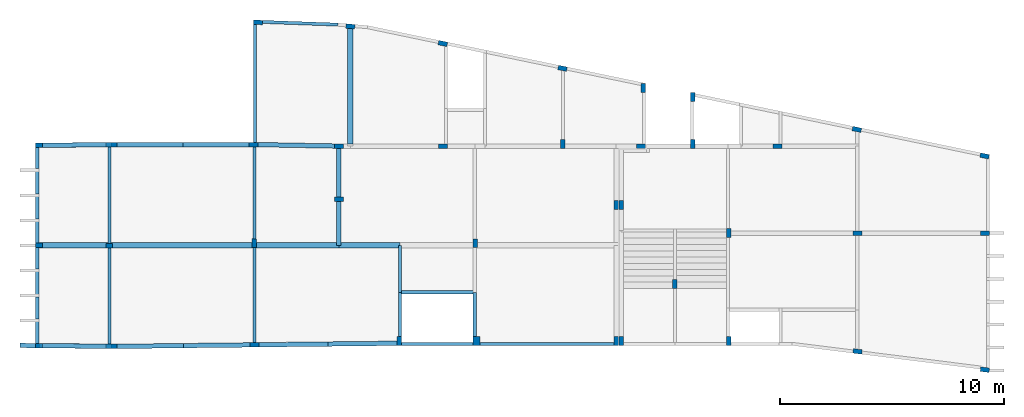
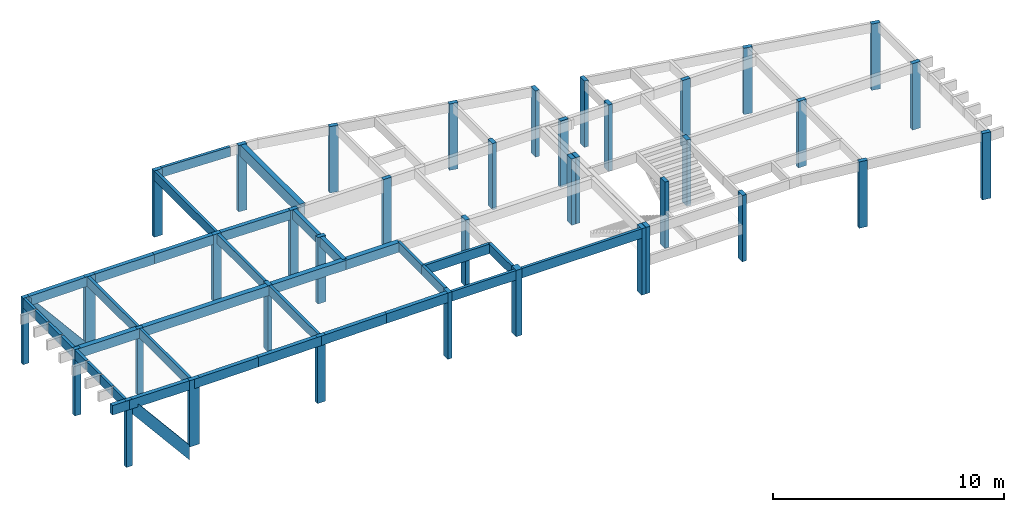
# One storey, part 1 of 4: 39 beams, 38 columns.
"""IFC4 building model written with IfcOpenShell, lengths in centimetres."""

from ifc_helpers import new_model, si_unit, derived_unit, frame, origin, origin_with_axes, origin_2d_with_axis, place, context, project, spatial, rectangle, extrude, clip, halfspace, material, element, save


model = new_model("IFC4")

# Units and contexts
model_context = context("Model", 3, precision=1e-05, world=origin_with_axes(), identifier="Body")
ifc_project = project(units=[si_unit("LENGTHUNIT", "METRE", prefix="CENTI"), si_unit("VOLUMEUNIT", "CUBIC_METRE"), si_unit("AREAUNIT", "SQUARE_METRE"), si_unit("POWERUNIT", "WATT"), si_unit("LUMINOUSFLUXUNIT", "LUMEN"), si_unit("ELECTRICCURRENTUNIT", "AMPERE"), si_unit("PRESSUREUNIT", "PASCAL", prefix="KILO"), si_unit("MASSUNIT", "GRAM", prefix="KILO"), si_unit("PLANEANGLEUNIT", "RADIAN"), derived_unit("VOLUMETRICFLOWRATEUNIT", [(si_unit("LENGTHUNIT", "METRE"), 3), (si_unit("TIMEUNIT", "SECOND"), -1)])], contexts=[model_context])

# Site, building, storey
site_placement = place(None, origin_with_axes())
site = spatial("IfcSite", under=ifc_project, at=site_placement)
building_placement = place(site_placement, origin())
building = spatial("IfcBuilding", under=site, at=building_placement)
placement_1 = place(building_placement, origin_with_axes())
placement_2 = place(placement_1, frame((0.0, 0.0, 550.0), z_axis=(0.0, 0.0, 1.0), x_axis=(1.0, 0.0, 0.0)))
placement_3 = place(placement_2, frame((0.0, 0.0, 350.0), z_axis=(0.0, 0.0, 1.0), x_axis=(1.0, 0.0, 0.0)))
storey_placement = place(placement_3, frame((0.0, 0.0, 350.0), z_axis=(0.0, 0.0, 1.0), x_axis=(1.0, 0.0, 0.0)))
storey = spatial("IfcBuildingStorey", under=building, at=storey_placement, Name="2º PAV.", CompositionType="ELEMENT", Elevation=1250.0)

# Columns
ifc_material = material(Name="Concreto")
column_1_placement = place(storey_placement, frame((1045.1201307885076, 95.92384188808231, 0.0), z_axis=(0.0, 0.0, 1.0), x_axis=(1.0, 0.0, 0.0)))
element("IfcColumn", 1, at=column_1_placement, inside=storey, material=ifc_material, Name="P1", context=model_context, shape_type="SolidModel", body=[
    extrude(rectangle(XDim=20.0, YDim=40.0, at=origin_2d_with_axis()), frame((0.0, 0.0, 0.0), z_axis=(0.0, 0.0, 1.0), x_axis=(-0.036643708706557, -0.999328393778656, 0.0)), (0.0, 0.0, -1.0), 350.0),
])
for number, where, z_axis, x_axis, name in (
    (2, (1406.0, -455.9, 0.0), (0.0, 0.0, 1.0), (1.0, 0.0, 0.0), "P10"),
    (3, (1871.0, -455.9, 0.0), (0.0, 0.0, 1.0), (1.0, 0.0, 0.0), "P11"),
):
    element("IfcColumn", number, at=place(storey_placement, frame(where, z_axis=z_axis, x_axis=x_axis)), inside=storey, material=ifc_material, Name=name, context=model_context, shape_type="SolidModel", body=[
        extrude(rectangle(XDim=20.0, YDim=40.0, at=origin_2d_with_axis()), frame((0.0, 0.0, 0.0), z_axis=(0.0, 0.0, 1.0), x_axis=(0.0, -1.0, 0.0)), (0.0, 0.0, -1.0), 350.0),
    ])
column_2_placement = place(storey_placement, frame((2404.5, -445.9, 0.0), z_axis=(0.0, 0.0, 1.0), x_axis=(1.0, 0.0, 0.0)))
element("IfcColumn", 4, at=column_2_placement, inside=storey, material=ifc_material, Name="P12", context=model_context, shape_type="SolidModel", body=[
    extrude(rectangle(XDim=20.0, YDim=40.0, at=origin_2d_with_axis()), origin_with_axes(), (0.0, 0.0, -1.0), 350.0),
])
column_3_placement = place(storey_placement, frame((2753.0, -455.9, 0.0), z_axis=(0.0, 0.0, 1.0), x_axis=(1.0, 0.0, 0.0)))
element("IfcColumn", 5, at=column_3_placement, inside=storey, material=ifc_material, Name="P13", context=model_context, shape_type="SolidModel", body=[
    extrude(rectangle(XDim=20.0, YDim=40.0, at=origin_2d_with_axis()), frame((0.0, 0.0, 0.0), z_axis=(0.0, 0.0, 1.0), x_axis=(0.0, -1.0, 0.0)), (0.0, 0.0, -1.0), 350.0),
])
column_4_placement = place(storey_placement, frame((2983.0, -445.9, 0.0), z_axis=(0.0, 0.0, 1.0), x_axis=(1.0, 0.0, 0.0)))
element("IfcColumn", 6, at=column_4_placement, inside=storey, material=ifc_material, Name="P14", context=model_context, shape_type="SolidModel", body=[
    extrude(rectangle(XDim=20.0, YDim=40.0, at=origin_2d_with_axis()), origin_with_axes(), (0.0, 0.0, -1.0), 350.0),
])
column_5_placement = place(storey_placement, frame((3361.6, -455.9, 0.0), z_axis=(0.0, 0.0, 1.0), x_axis=(1.0, 0.0, 0.0)))
element("IfcColumn", 7, at=column_5_placement, inside=storey, material=ifc_material, Name="P15", context=model_context, shape_type="SolidModel", body=[
    extrude(rectangle(XDim=20.0, YDim=40.0, at=origin_2d_with_axis()), frame((0.0, 0.0, 0.0), z_axis=(0.0, 0.0, 1.0), x_axis=(0.0, -1.0, 0.0)), (0.0, 0.0, -1.0), 350.0),
])
column_6_placement = place(storey_placement, frame((4283.977691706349, -499.29875285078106, 0.0), z_axis=(0.0, 0.0, 1.0), x_axis=(1.0, 0.0, 0.0)))
element("IfcColumn", 8, at=column_6_placement, inside=storey, material=ifc_material, Name="P16", context=model_context, shape_type="SolidModel", body=[
    extrude(rectangle(XDim=20.0, YDim=40.0, at=origin_2d_with_axis()), frame((0.0, 0.0, 0.0), z_axis=(0.0, 0.0, 1.0), x_axis=(-0.204496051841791, -0.978867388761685, 0.0)), (0.0, 0.0, -1.0), 350.0),
])
column_7_placement = place(storey_placement, frame((1406.0, -692.9, 0.0), z_axis=(0.0, 0.0, 1.0), x_axis=(1.0, 0.0, 0.0)))
element("IfcColumn", 9, at=column_7_placement, inside=storey, material=ifc_material, Name="P18", context=model_context, shape_type="SolidModel", body=[
    extrude(rectangle(XDim=20.0, YDim=40.0, at=origin_2d_with_axis()), frame((0.0, 0.0, 0.0), z_axis=(0.0, 0.0, 1.0), x_axis=(0.0, 1.0, 0.0)), (0.0, 0.0, -1.0), 350.0),
])
column_8_placement = place(storey_placement, frame((2641.6, -718.1, 0.0), z_axis=(0.0, 0.0, 1.0), x_axis=(1.0, 0.0, 0.0)))
element("IfcColumn", 10, at=column_8_placement, inside=storey, material=ifc_material, Name="P19", context=model_context, shape_type="SolidModel", body=[
    extrude(rectangle(XDim=20.0, YDim=40.0, at=origin_2d_with_axis()), origin_with_axes(), (0.0, 0.0, -1.0), 350.0),
])
column_9_placement = place(storey_placement, frame((1457.0958307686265, 78.33654703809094, 0.0), z_axis=(0.0, 0.0, 1.0), x_axis=(1.0, 0.0, 0.0)))
element("IfcColumn", 11, at=column_9_placement, inside=storey, material=ifc_material, Name="P2", context=model_context, shape_type="SolidModel", body=[
    extrude(rectangle(XDim=20.0, YDim=40.0, at=origin_2d_with_axis()), frame((0.0, 0.0, 0.0), z_axis=(0.0, 0.0, 1.0), x_axis=(-0.085416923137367, -0.996345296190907, 0.0)), (0.0, 0.0, -1.0), 350.0),
])
column_10_placement = place(storey_placement, frame((2663.6, -718.1, 0.0), z_axis=(0.0, 0.0, 1.0), x_axis=(1.0, 0.0, 0.0)))
element("IfcColumn", 12, at=column_10_placement, inside=storey, material=ifc_material, Name="P20", context=model_context, shape_type="SolidModel", body=[
    extrude(rectangle(XDim=20.0, YDim=40.0, at=origin_2d_with_axis()), frame((0.0, 0.0, 0.0), z_axis=(0.0, 0.0, 1.0), x_axis=(-1.0, 0.0, 0.0)), (0.0, 0.0, -1.0), 350.0),
])
column_11_placement = place(storey_placement, frame((1029.5, -888.4, 0.0), z_axis=(0.0, 0.0, 1.0), x_axis=(1.0, 0.0, 0.0)))
element("IfcColumn", 13, at=column_11_placement, inside=storey, material=ifc_material, Name="P22", context=model_context, shape_type="SolidModel", body=[
    extrude(rectangle(XDim=20.0, YDim=40.0, at=origin_2d_with_axis()), frame((0.0, 0.0, 0.0), z_axis=(0.0, 0.0, 1.0), x_axis=(1.0, -0.003490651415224, 0.0)), (0.0, 0.0, -1.0), 350.0),
])
for number, where, z_axis, x_axis, name in (
    (14, (2014.6, -888.4, 0.0), (0.0, 0.0, 1.0), (1.0, 0.0, 0.0), "P23"),
    (15, (3143.6, -843.6, 0.0), (0.0, 0.0, 1.0), (1.0, 0.0, 0.0), "P24"),
):
    element("IfcColumn", number, at=place(storey_placement, frame(where, z_axis=z_axis, x_axis=x_axis)), inside=storey, material=ifc_material, Name=name, context=model_context, shape_type="SolidModel", body=[
        extrude(rectangle(XDim=20.0, YDim=40.0, at=origin_2d_with_axis()), origin_with_axes(), (0.0, 0.0, -1.0), 350.0),
    ])
for number, where, z_axis, x_axis, name in (
    (16, (3716.6, -843.1, 0.0), (0.0, 0.0, 1.0), (1.0, 0.0, 0.0), "P25"),
    (17, (4285.6, -843.1, 0.0), (0.0, 0.0, 1.0), (1.0, 0.0, 0.0), "P26"),
):
    element("IfcColumn", number, at=place(storey_placement, frame(where, z_axis=z_axis, x_axis=x_axis)), inside=storey, material=ifc_material, Name=name, context=model_context, shape_type="SolidModel", body=[
        extrude(rectangle(XDim=20.0, YDim=40.0, at=origin_2d_with_axis()), frame((0.0, 0.0, 0.0), z_axis=(0.0, 0.0, 1.0), x_axis=(0.0, -1.0, 0.0)), (0.0, 0.0, -1.0), 350.0),
    ])
column_12_placement = place(storey_placement, frame((2903.6, -1070.1, 0.0), z_axis=(0.0, 0.0, 1.0), x_axis=(1.0, 0.0, 0.0)))
element("IfcColumn", 18, at=column_12_placement, inside=storey, material=ifc_material, Name="P27", context=model_context, shape_type="SolidModel", body=[
    extrude(rectangle(XDim=20.0, YDim=40.0, at=origin_2d_with_axis()), frame((0.0, 0.0, 0.0), z_axis=(0.0, 0.0, 1.0), x_axis=(-1.0, 0.0, 0.0)), (0.0, 0.0, -1.0), 350.0),
])
column_13_placement = place(storey_placement, frame((392.75, -1348.2, 0.0), z_axis=(0.0, 0.0, 1.0), x_axis=(1.0, 0.0, 0.0)))
element("IfcColumn", 19, at=column_13_placement, inside=storey, material=ifc_material, Name="P28", context=model_context, shape_type="SolidModel", body=[
    extrude(rectangle(XDim=20.0, YDim=50.0, at=origin_2d_with_axis()), frame((0.0, 0.0, 0.0), z_axis=(0.0, 0.0, 1.0), x_axis=(0.0, -1.0, 0.0)), (0.0, 0.0, -1.0), 350.0),
])
column_14_placement = place(storey_placement, frame((1029.7, -1341.0, 0.0), z_axis=(0.0, 0.0, 1.0), x_axis=(1.0, 0.0, 0.0)))
element("IfcColumn", 20, at=column_14_placement, inside=storey, material=ifc_material, Name="P29", context=model_context, shape_type="SolidModel", body=[
    extrude(rectangle(XDim=20.0, YDim=40.0, at=origin_2d_with_axis()), frame((0.0, 0.0, 0.0), z_axis=(0.0, 0.0, 1.0), x_axis=(0.0, -1.0, 0.0)), (0.0, 0.0, -1.0), 350.0),
])
column_15_placement = place(storey_placement, frame((1869.3876708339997, 1.853517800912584, 0.0), z_axis=(0.0, 0.0, 1.0), x_axis=(1.0, 0.0, 0.0)))
element("IfcColumn", 21, at=column_15_placement, inside=storey, material=ifc_material, Name="P3", context=model_context, shape_type="SolidModel", body=[
    extrude(rectangle(XDim=20.0, YDim=40.0, at=origin_2d_with_axis()), frame((0.0, 0.0, 0.0), z_axis=(0.0, 0.0, 1.0), x_axis=(-0.202787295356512, -0.979222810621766, 0.0)), (0.0, 0.0, -1.0), 350.0),
])
column_16_placement = place(storey_placement, frame((1674.6, -1324.1, 0.0), z_axis=(0.0, 0.0, 1.0), x_axis=(1.0, 0.0, 0.0)))
element("IfcColumn", 22, at=column_16_placement, inside=storey, material=ifc_material, Name="P30", context=model_context, shape_type="SolidModel", body=[
    extrude(rectangle(XDim=20.0, YDim=40.0, at=origin_2d_with_axis()), frame((0.0, 0.0, 0.0), z_axis=(0.0, 0.0, 1.0), x_axis=(-1.0, 0.0, 0.0)), (0.0, 0.0, -1.0), 350.0),
])
column_17_placement = place(storey_placement, frame((2019.6, -1324.1, 0.0), z_axis=(0.0, 0.0, 1.0), x_axis=(1.0, 0.0, 0.0)))
element("IfcColumn", 23, at=column_17_placement, inside=storey, material=ifc_material, Name="P31", context=model_context, shape_type="SolidModel", body=[
    extrude(rectangle(XDim=30.0, YDim=40.0, at=origin_2d_with_axis()), origin_with_axes(), (0.0, 0.0, -1.0), 350.0),
])
column_18_placement = place(storey_placement, frame((2641.6, -1324.1, 0.0), z_axis=(0.0, 0.0, 1.0), x_axis=(1.0, 0.0, 0.0)))
element("IfcColumn", 24, at=column_18_placement, inside=storey, material=ifc_material, Name="P32", context=model_context, shape_type="SolidModel", body=[
    extrude(rectangle(XDim=20.0, YDim=40.0, at=origin_2d_with_axis()), frame((0.0, 0.0, 0.0), z_axis=(0.0, 0.0, 1.0), x_axis=(-1.0, 0.0, 0.0)), (0.0, 0.0, -1.0), 350.0),
])
for number, where, z_axis, x_axis, name in (
    (25, (2663.6, -1324.1, 0.0), (0.0, 0.0, 1.0), (1.0, 0.0, 0.0), "P33"),
    (26, (3143.6, -1324.1, 0.0), (0.0, 0.0, 1.0), (1.0, 0.0, 0.0), "P34"),
):
    element("IfcColumn", number, at=place(storey_placement, frame(where, z_axis=z_axis, x_axis=x_axis)), inside=storey, material=ifc_material, Name=name, context=model_context, shape_type="SolidModel", body=[
        extrude(rectangle(XDim=20.0, YDim=40.0, at=origin_2d_with_axis()), origin_with_axes(), (0.0, 0.0, -1.0), 350.0),
    ])
for number, where, z_axis, x_axis, name in (
    (27, (3717.853332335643, -1370.618852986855, 0.0), (0.0, 0.0, 1.0), (1.0, 0.0, 0.0), "P35"),
    (28, (4285.261038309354, -1452.042188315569, 0.0), (0.0, 0.0, 1.0), (1.0, 0.0, 0.0), "P36"),
):
    element("IfcColumn", number, at=place(storey_placement, frame(where, z_axis=z_axis, x_axis=x_axis)), inside=storey, material=ifc_material, Name=name, context=model_context, shape_type="SolidModel", body=[
        extrude(rectangle(XDim=20.0, YDim=40.0, at=origin_2d_with_axis()), frame((0.0, 0.0, 0.0), z_axis=(0.0, 0.0, 1.0), x_axis=(0.125333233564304, 0.992114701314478, 0.0)), (0.0, 0.0, -1.0), 350.0),
    ])
column_19_placement = place(storey_placement, frame((69.56944706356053, -452.14503740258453, 0.0), z_axis=(0.0, 0.0, 1.0), x_axis=(1.0, 0.0, 0.0)))
element("IfcColumn", 29, at=column_19_placement, inside=storey, material=ifc_material, Name="P37", context=model_context, shape_type="SolidModel", body=[
    extrude(rectangle(XDim=20.0, YDim=30.0, at=origin_2d_with_axis()), frame((0.0, 0.0, 0.0), z_axis=(0.0, 0.0, 1.0), x_axis=(0.006981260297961, -1.0, 0.0)), (0.0, 0.0, -1.0), 350.0),
])
for number, where, z_axis, x_axis, name in (
    (30, (69.55, -898.43, 0.0), (0.0, 0.0, 1.0), (1.0, 0.0, 0.0), "P38"),
    (31, (382.75, -899.42, 0.0), (0.0, 0.0, 1.0), (1.0, 0.0, 0.0), "P39"),
):
    element("IfcColumn", number, at=place(storey_placement, frame(where, z_axis=z_axis, x_axis=x_axis)), inside=storey, material=ifc_material, Name=name, context=model_context, shape_type="SolidModel", body=[
        extrude(rectangle(XDim=20.0, YDim=30.0, at=origin_2d_with_axis()), frame((0.0, 0.0, 0.0), z_axis=(0.0, 0.0, 1.0), x_axis=(0.0, -1.0, 0.0)), (0.0, 0.0, -1.0), 350.0),
    ])
column_20_placement = place(storey_placement, frame((2402.755039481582, -108.86867388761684, 0.0), z_axis=(0.0, 0.0, 1.0), x_axis=(1.0, 0.0, 0.0)))
element("IfcColumn", 32, at=column_20_placement, inside=storey, material=ifc_material, Name="P4", context=model_context, shape_type="SolidModel", body=[
    extrude(rectangle(XDim=20.0, YDim=40.0, at=origin_2d_with_axis()), frame((0.0, 0.0, 0.0), z_axis=(0.0, 0.0, 1.0), x_axis=(-0.204496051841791, -0.978867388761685, 0.0)), (0.0, 0.0, -1.0), 350.0),
])
column_21_placement = place(storey_placement, frame((69.6, -1344.7, 0.0), z_axis=(0.0, 0.0, 1.0), x_axis=(1.0, 0.0, 0.0)))
element("IfcColumn", 33, at=column_21_placement, inside=storey, material=ifc_material, Name="P40", context=model_context, shape_type="SolidModel", body=[
    extrude(rectangle(XDim=20.0, YDim=30.0, at=origin_2d_with_axis()), frame((0.0, 0.0, 0.0), z_axis=(0.0, 0.0, 1.0), x_axis=(0.0, 1.0, 0.0)), (0.0, 0.0, -1.0), 350.0),
])
for number, where, z_axis, x_axis, name in (
    (34, (2763.0, -195.49, 0.0), (0.0, 0.0, 1.0), (1.0, 0.0, 0.0), "P5"),
    (35, (2983.0, -237.0, 0.0), (0.0, 0.0, 1.0), (1.0, 0.0, 0.0), "P6"),
):
    element("IfcColumn", number, at=place(storey_placement, frame(where, z_axis=z_axis, x_axis=x_axis)), inside=storey, material=ifc_material, Name=name, context=model_context, shape_type="SolidModel", body=[
        extrude(rectangle(XDim=20.0, YDim=40.0, at=origin_2d_with_axis()), origin_with_axes(), (0.0, 0.0, -1.0), 350.0),
    ])
column_22_placement = place(storey_placement, frame((3714.555039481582, -381.1386738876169, 0.0), z_axis=(0.0, 0.0, 1.0), x_axis=(1.0, 0.0, 0.0)))
element("IfcColumn", 36, at=column_22_placement, inside=storey, material=ifc_material, Name="P7", context=model_context, shape_type="SolidModel", body=[
    extrude(rectangle(XDim=20.0, YDim=40.0, at=origin_2d_with_axis()), frame((0.0, 0.0, 0.0), z_axis=(0.0, 0.0, 1.0), x_axis=(-0.204496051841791, -0.978867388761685, 0.0)), (0.0, 0.0, -1.0), 350.0),
])
column_23_placement = place(storey_placement, frame((392.75, -448.8, 0.0), z_axis=(0.0, 0.0, 1.0), x_axis=(1.0, 0.0, 0.0)))
element("IfcColumn", 37, at=column_23_placement, inside=storey, material=ifc_material, Name="P8", context=model_context, shape_type="SolidModel", body=[
    extrude(rectangle(XDim=20.0, YDim=50.0, at=origin_2d_with_axis()), frame((0.0, 0.0, 0.0), z_axis=(0.0, 0.0, 1.0), x_axis=(0.0, -1.0, 0.0)), (0.0, 0.0, -1.0), 350.0),
])
column_24_placement = place(storey_placement, frame((1025.0, -448.8, 0.0), z_axis=(0.0, 0.0, 1.0), x_axis=(1.0, 0.0, 0.0)))
element("IfcColumn", 38, at=column_24_placement, inside=storey, material=ifc_material, Name="P9", context=model_context, shape_type="SolidModel", body=[
    extrude(rectangle(XDim=20.0, YDim=40.0, at=origin_2d_with_axis()), frame((0.0, 0.0, 0.0), z_axis=(0.0, 0.0, 1.0), x_axis=(0.0, -1.0, 0.0)), (0.0, 0.0, -1.0), 350.0),
])

# Beams
beam_1_placement = place(storey_placement, frame((226.16, -450.4, 0.0), z_axis=(0.0, 0.0, 1.0), x_axis=(1.0, 0.0, 0.0)))
element("IfcBeam", 39, at=beam_1_placement, inside=storey, material=ifc_material, Name="V.INCLINADA1", context=model_context, shape_type="Clipping", body=[
    clip(clip(extrude(rectangle(XDim=20.0, YDim=50.0, at=origin_2d_with_axis()), frame((-160.79806324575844, -1.81705559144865, -16.00009978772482), z_axis=(-0.639963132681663, -0.007231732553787, 0.768371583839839), x_axis=(0.011299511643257, -1.0, 0.0)), (0.0, 0.0, -1.0), 502.52289556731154), halfspace(frame((-141.59, -1.6, 0.0), z_axis=(1.0, 0.011299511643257, 0.0), x_axis=(-0.008682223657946, 0.768322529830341, 0.0)), True)), halfspace(frame((141.59, 1.6, -340.0), z_axis=(-1.0, -0.011299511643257, 0.0), x_axis=(0.008682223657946, -0.768322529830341, 0.0)), True)),
])
beam_2_placement = place(storey_placement, frame((226.175, -1346.435, 0.0), z_axis=(0.0, 0.0, 1.0), x_axis=(1.0, 0.0, 0.0)))
element("IfcBeam", 40, at=beam_2_placement, inside=storey, material=ifc_material, Name="V.INCLINADA2", context=model_context, shape_type="Clipping", body=[
    clip(clip(extrude(rectangle(XDim=20.0, YDim=50.0, at=origin_2d_with_axis()), frame((-160.78407520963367, 1.720557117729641, -15.999036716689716), z_axis=(-0.639924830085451, 0.006847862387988, 0.768407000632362), x_axis=(-0.010700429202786, -1.0, 0.0)), (0.0, 0.0, -1.0), 502.5092562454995), halfspace(frame((-141.575, 1.515, 0.0), z_axis=(1.0, -0.010700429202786, 0.0), x_axis=(0.008222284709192, 0.768363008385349, 0.0)), True)), halfspace(frame((141.575, -1.515, -340.0), z_axis=(-1.0, 0.010700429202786, 0.0), x_axis=(-0.008222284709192, -0.768363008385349, 0.0)), True)),
])
beam_3_placement = place(storey_placement, frame((706.125132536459, -898.030079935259, 0.0), z_axis=(0.0, 0.0, 1.0), x_axis=(1.0, 0.0, 0.0)))
element("IfcBeam", 41, at=beam_3_placement, inside=storey, material=ifc_material, Name="V13", context=model_context, shape_type="SolidModel", body=[
    extrude(rectangle(XDim=25.0, YDim=50.0, at=origin_2d_with_axis()), frame((-323.3751769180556, -0.010402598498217, -25.0), z_axis=(1.0, 3.2168821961e-05, 0.0), x_axis=(3.2168821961e-05, -1.0, 0.0)), (0.0, 0.0, 1.0), 646.7503541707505),
])
beam_4_placement = place(storey_placement, frame((1217.75, -898.02, 0.0), z_axis=(0.0, 0.0, 1.0), x_axis=(1.0, 0.0, 0.0)))
element("IfcBeam", 42, at=beam_4_placement, inside=storey, material=ifc_material, Name="V13", context=model_context, shape_type="SolidModel", body=[
    extrude(rectangle(XDim=25.0, YDim=50.0, at=origin_2d_with_axis()), frame((-188.25, 0.0, -25.0), z_axis=(1.0, 0.0, 0.0), x_axis=(0.0, -1.0, 0.0)), (0.0, 0.0, 1.0), 376.5),
])
beam_5_placement = place(storey_placement, frame((1541.8, -898.02, 0.0), z_axis=(0.0, 0.0, 1.0), x_axis=(1.0, 0.0, 0.0)))
element("IfcBeam", 43, at=beam_5_placement, inside=storey, material=ifc_material, Name="V13", context=model_context, shape_type="SolidModel", body=[
    extrude(rectangle(XDim=25.0, YDim=50.0, at=origin_2d_with_axis()), frame((-135.8, 0.0, -25.0), z_axis=(1.0, 0.0, 0.0), x_axis=(0.0, -1.0, 0.0)), (0.0, 0.0, 1.0), 271.6),
])
beam_6_placement = place(storey_placement, frame((218.65, -898.04, 0.0), z_axis=(0.0, 0.0, 1.0), x_axis=(1.0, 0.0, 0.0)))
element("IfcBeam", 44, at=beam_6_placement, inside=storey, material=ifc_material, Name="V13", context=model_context, shape_type="SolidModel", body=[
    extrude(rectangle(XDim=25.0, YDim=50.0, at=origin_2d_with_axis()), frame((-164.1, 0.0, -25.0), z_axis=(1.0, 0.0, 0.0), x_axis=(0.0, -1.0, 0.0)), (0.0, 0.0, 1.0), 328.2),
])
beam_7_placement = place(storey_placement, frame((1844.6, -1106.9, 0.0), z_axis=(0.0, 0.0, 1.0), x_axis=(1.0, 0.0, 0.0)))
element("IfcBeam", 45, at=beam_7_placement, inside=storey, material=ifc_material, Name="V18", context=model_context, shape_type="SolidModel", body=[
    extrude(rectangle(XDim=14.0, YDim=50.0, at=origin_2d_with_axis()), frame((-167.0, 0.0, -25.0), z_axis=(1.0, 0.0, 0.0), x_axis=(0.0, -1.0, 0.0)), (0.0, 0.0, 1.0), 334.0),
])
beam_8_placement = place(storey_placement, frame((238.64749347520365, -450.50549612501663, 0.0), z_axis=(0.0, 0.0, 1.0), x_axis=(1.0, 0.0, 0.0)))
element("IfcBeam", 46, at=beam_8_placement, inside=storey, material=ifc_material, Name="V2", context=model_context, shape_type="SolidModel", body=[
    extrude(rectangle(XDim=20.0, YDim=50.0, at=origin_2d_with_axis()), frame((-154.10471460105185, -1.47476437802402, -25.0), z_axis=(1.0, 0.009569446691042, 0.0), x_axis=(0.009569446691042, -1.0, 0.0)), (0.0, 0.0, 1.0), 308.22354220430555),
])
beam_9_placement = place(storey_placement, frame((858.19, -448.8, 0.0), z_axis=(0.0, 0.0, 1.0), x_axis=(1.0, 0.0, 0.0)))
element("IfcBeam", 47, at=beam_9_placement, inside=storey, material=ifc_material, Name="V2", context=model_context, shape_type="SolidModel", body=[
    extrude(rectangle(XDim=20.0, YDim=50.0, at=origin_2d_with_axis()), frame((-146.81, 0.0, -25.0), z_axis=(1.0, 0.0, 0.0), x_axis=(0.0, -1.0, 0.0)), (0.0, 0.0, 1.0), 293.62),
])
beam_10_placement = place(storey_placement, frame((564.565, -448.8, 0.0), z_axis=(0.0, 0.0, 1.0), x_axis=(1.0, 0.0, 0.0)))
element("IfcBeam", 48, at=beam_10_placement, inside=storey, material=ifc_material, Name="V2", context=model_context, shape_type="SolidModel", body=[
    extrude(rectangle(XDim=20.0, YDim=50.0, at=origin_2d_with_axis()), frame((-146.815, 0.0, -25.0), z_axis=(1.0, 0.0, 0.0), x_axis=(0.0, -1.0, 0.0)), (0.0, 0.0, 1.0), 293.63),
])
beam_11_placement = place(storey_placement, frame((871.7170709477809, -1343.1438170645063, 0.0), z_axis=(0.0, 0.0, 1.0), x_axis=(1.0, 0.0, 0.0)))
element("IfcBeam", 49, at=beam_11_placement, inside=storey, material=ifc_material, Name="V23", context=model_context, shape_type="SolidModel", body=[
    extrude(rectangle(XDim=20.0, YDim=50.0, at=origin_2d_with_axis()), frame((-157.98723796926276, -1.756184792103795, -25.0), z_axis=(1.0, 0.011115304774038, 0.0), x_axis=(0.011115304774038, -1.0, 0.0)), (0.0, 0.0, 1.0), 315.993997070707),
])
beam_12_placement = place(storey_placement, frame((1510.9305340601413, -1336.0293822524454, 0.0), z_axis=(0.0, 0.0, 1.0), x_axis=(1.0, 0.0, 0.0)))
element("IfcBeam", 50, at=beam_12_placement, inside=storey, material=ifc_material, Name="V23", context=model_context, shape_type="SolidModel", body=[
    extrude(rectangle(XDim=20.0, YDim=50.0, at=origin_2d_with_axis()), frame((-153.78069665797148, -1.710619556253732, -25.0), z_axis=(1.0, 0.011123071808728, 0.0), x_axis=(0.011123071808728, -1.0, 0.0)), (0.0, 0.0, 1.0), 307.5804212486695),
])
beam_13_placement = place(storey_placement, frame((27.169016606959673, -1344.3858747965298, 0.0), z_axis=(0.0, 0.0, 1.0), x_axis=(1.0, 0.0, 0.0)))
element("IfcBeam", 51, at=beam_13_placement, inside=storey, material=ifc_material, Name="V23", context=model_context, shape_type="SolidModel", body=[
    extrude(rectangle(XDim=20.0, YDim=50.0, at=origin_2d_with_axis()), frame((-42.429016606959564, 0.485874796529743, -25.0), z_axis=(1.0, -0.011450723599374, 0.0), x_axis=(-0.011450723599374, -1.0, 0.0)), (0.0, 0.0, 1.0), 84.86359701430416),
])
beam_14_placement = place(storey_placement, frame((231.17682002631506, -1346.2379257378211, 0.0), z_axis=(0.0, 0.0, 1.0), x_axis=(1.0, 0.0, 0.0)))
element("IfcBeam", 52, at=beam_14_placement, inside=storey, material=ifc_material, Name="V23", context=model_context, shape_type="SolidModel", body=[
    extrude(rectangle(XDim=20.0, YDim=50.0, at=origin_2d_with_axis()), frame((-161.57811813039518, 1.386667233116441, -25.0), z_axis=(1.0, -0.008581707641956, 0.0), x_axis=(-0.008581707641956, -1.0, 0.0)), (0.0, 0.0, 1.0), 323.1681364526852),
])
beam_15_placement = place(storey_placement, frame((1193.4272739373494, -1339.5665374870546, 0.0), z_axis=(0.0, 0.0, 1.0), x_axis=(1.0, 0.0, 0.0)))
element("IfcBeam", 53, at=beam_15_placement, inside=storey, material=ifc_material, Name="V23", context=model_context, shape_type="SolidModel", body=[
    extrude(rectangle(XDim=20.0, YDim=50.0, at=origin_2d_with_axis()), frame((-163.72288866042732, -1.826539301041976, -25.0), z_axis=(1.0, 0.011155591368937, 0.0), x_axis=(0.011155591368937, -1.0, 0.0)), (0.0, 0.0, 1.0), 327.46615408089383),
])
beam_16_placement = place(storey_placement, frame((553.2416371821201, -1346.689349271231, 0.0), z_axis=(0.0, 0.0, 1.0), x_axis=(1.0, 0.0, 0.0)))
element("IfcBeam", 54, at=beam_16_placement, inside=storey, material=ifc_material, Name="V23", context=model_context, shape_type="SolidModel", body=[
    extrude(rectangle(XDim=20.0, YDim=50.0, at=origin_2d_with_axis()), frame((-160.48852983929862, -1.789351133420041, -25.0), z_axis=(1.0, 0.011148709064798, 0.0), x_axis=(0.011148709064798, -1.0, 0.0)), (0.0, 0.0, 1.0), 320.99700925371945),
])
beam_17_placement = place(storey_placement, frame((1844.6, -1337.1, 0.0), z_axis=(0.0, 0.0, 1.0), x_axis=(1.0, 0.0, 0.0)))
element("IfcBeam", 55, at=beam_17_placement, inside=storey, material=ifc_material, Name="V24", context=model_context, shape_type="SolidModel", body=[
    extrude(rectangle(XDim=14.0, YDim=50.0, at=origin_2d_with_axis()), frame((-160.0, 0.0, -25.0), z_axis=(1.0, 0.0, 0.0), x_axis=(0.0, -1.0, 0.0)), (0.0, 0.0, 1.0), 320.0),
])
beam_18_placement = place(storey_placement, frame((2333.1, -1337.1, 0.0), z_axis=(0.0, 0.0, 1.0), x_axis=(1.0, 0.0, 0.0)))
element("IfcBeam", 56, at=beam_18_placement, inside=storey, material=ifc_material, Name="V24", context=model_context, shape_type="SolidModel", body=[
    extrude(rectangle(XDim=14.0, YDim=50.0, at=origin_2d_with_axis()), frame((-298.5, 0.0, -25.0), z_axis=(1.0, 0.0, 0.0), x_axis=(0.0, -1.0, 0.0)), (0.0, 0.0, 1.0), 597.0),
])
beam_19_placement = place(storey_placement, frame((61.6, -955.515, 0.0), z_axis=(0.0, 0.0, 1.0), x_axis=(1.0, 0.0, 0.0)))
element("IfcBeam", 57, at=beam_19_placement, inside=storey, material=ifc_material, Name="V27", context=model_context, shape_type="SolidModel", body=[
    extrude(rectangle(XDim=14.0, YDim=50.0, at=origin_2d_with_axis()), frame((0.0, -47.085, -25.0), z_axis=(0.0, 1.0, 0.0), x_axis=(1.0, 0.0, 0.0)), (0.0, 0.0, 1.0), 94.17),
])
beam_20_placement = place(storey_placement, frame((61.6, -727.15, 0.0), z_axis=(0.0, 0.0, 1.0), x_axis=(1.0, 0.0, 0.0)))
element("IfcBeam", 58, at=beam_20_placement, inside=storey, material=ifc_material, Name="V27", context=model_context, shape_type="SolidModel", body=[
    extrude(rectangle(XDim=14.0, YDim=50.0, at=origin_2d_with_axis()), frame((0.0, -52.3, -25.0), z_axis=(0.0, 1.0, 0.0), x_axis=(1.0, 0.0, 0.0)), (0.0, 0.0, 1.0), 104.6),
])
beam_21_placement = place(storey_placement, frame((61.6, -615.575, 0.0), z_axis=(0.0, 0.0, 1.0), x_axis=(1.0, 0.0, 0.0)))
element("IfcBeam", 59, at=beam_21_placement, inside=storey, material=ifc_material, Name="V27", context=model_context, shape_type="SolidModel", body=[
    extrude(rectangle(XDim=14.0, YDim=50.0, at=origin_2d_with_axis()), frame((0.0, -52.275, -25.0), z_axis=(0.0, 1.0, 0.0), x_axis=(1.0, 0.0, 0.0)), (0.0, 0.0, 1.0), 104.55),
])
beam_22_placement = place(storey_placement, frame((61.6, -509.22602461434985, 0.0), z_axis=(0.0, 0.0, 1.0), x_axis=(1.0, 0.0, 0.0)))
element("IfcBeam", 60, at=beam_22_placement, inside=storey, material=ifc_material, Name="V27", context=model_context, shape_type="SolidModel", body=[
    extrude(rectangle(XDim=14.0, YDim=50.0, at=origin_2d_with_axis()), frame((0.0, -47.0739753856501, -25.0), z_axis=(0.0, 1.0, 0.0), x_axis=(1.0, 0.0, 0.0)), (0.0, 0.0, 1.0), 94.14795077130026),
])
beam_23_placement = place(storey_placement, frame((61.6, -837.44, 0.0), z_axis=(0.0, 0.0, 1.0), x_axis=(1.0, 0.0, 0.0)))
element("IfcBeam", 61, at=beam_23_placement, inside=storey, material=ifc_material, Name="V27", context=model_context, shape_type="SolidModel", body=[
    extrude(rectangle(XDim=14.0, YDim=50.0, at=origin_2d_with_axis()), frame((0.0, -50.99, -25.0), z_axis=(0.0, 1.0, 0.0), x_axis=(1.0, 0.0, 0.0)), (0.0, 0.0, 1.0), 101.98),
])
beam_24_placement = place(storey_placement, frame((61.6, -1283.75, 0.0), z_axis=(0.0, 0.0, 1.0), x_axis=(1.0, 0.0, 0.0)))
element("IfcBeam", 62, at=beam_24_placement, inside=storey, material=ifc_material, Name="V27", context=model_context, shape_type="SolidModel", body=[
    extrude(rectangle(XDim=14.0, YDim=50.0, at=origin_2d_with_axis()), frame((0.0, -50.95, -25.0), z_axis=(0.0, 1.0, 0.0), x_axis=(1.0, 0.0, 0.0)), (0.0, 0.0, 1.0), 101.9),
])
beam_25_placement = place(storey_placement, frame((61.6, -1177.0, 0.0), z_axis=(0.0, 0.0, 1.0), x_axis=(1.0, 0.0, 0.0)))
element("IfcBeam", 63, at=beam_25_placement, inside=storey, material=ifc_material, Name="V27", context=model_context, shape_type="SolidModel", body=[
    extrude(rectangle(XDim=14.0, YDim=50.0, at=origin_2d_with_axis()), frame((0.0, -48.8, -25.0), z_axis=(0.0, 1.0, 0.0), x_axis=(1.0, 0.0, 0.0)), (0.0, 0.0, 1.0), 97.6),
])
beam_26_placement = place(storey_placement, frame((61.6, -1065.4, 0.0), z_axis=(0.0, 0.0, 1.0), x_axis=(1.0, 0.0, 0.0)))
element("IfcBeam", 64, at=beam_26_placement, inside=storey, material=ifc_material, Name="V27", context=model_context, shape_type="SolidModel", body=[
    extrude(rectangle(XDim=14.0, YDim=50.0, at=origin_2d_with_axis()), frame((0.0, -55.8, -25.0), z_axis=(0.0, 1.0, 0.0), x_axis=(1.0, 0.0, 0.0)), (0.0, 0.0, 1.0), 111.6),
])
beam_27_placement = place(storey_placement, frame((382.75, -674.11, 0.0), z_axis=(0.0, 0.0, 1.0), x_axis=(1.0, 0.0, 0.0)))
element("IfcBeam", 65, at=beam_27_placement, inside=storey, material=ifc_material, Name="V28", context=model_context, shape_type="SolidModel", body=[
    extrude(rectangle(XDim=14.0, YDim=50.0, at=origin_2d_with_axis()), frame((0.0, -215.31, -25.0), z_axis=(0.0, 1.0, 0.0), x_axis=(1.0, 0.0, 0.0)), (0.0, 0.0, 1.0), 430.62),
])
beam_28_placement = place(storey_placement, frame((382.75, -1123.81, 0.0), z_axis=(0.0, 0.0, 1.0), x_axis=(1.0, 0.0, 0.0)))
element("IfcBeam", 66, at=beam_28_placement, inside=storey, material=ifc_material, Name="V28", context=model_context, shape_type="SolidModel", body=[
    extrude(rectangle(XDim=14.0, YDim=50.0, at=origin_2d_with_axis()), frame((0.0, -214.39, -25.0), z_axis=(0.0, 1.0, 0.0), x_axis=(1.0, 0.0, 0.0)), (0.0, 0.0, 1.0), 428.78),
])
beam_29_placement = place(storey_placement, frame((1029.7, -663.6, 0.0), z_axis=(0.0, 0.0, 1.0), x_axis=(1.0, 0.0, 0.0)))
element("IfcBeam", 67, at=beam_29_placement, inside=storey, material=ifc_material, Name="V29", context=model_context, shape_type="SolidModel", body=[
    extrude(rectangle(XDim=14.0, YDim=50.0, at=origin_2d_with_axis()), frame((0.0, -204.8, -25.0), z_axis=(0.0, 1.0, 0.0), x_axis=(1.0, 0.0, 0.0)), (0.0, 0.0, 1.0), 409.6),
])
beam_30_placement = place(storey_placement, frame((1029.7, -1119.7, 0.0), z_axis=(0.0, 0.0, 1.0), x_axis=(1.0, 0.0, 0.0)))
element("IfcBeam", 68, at=beam_30_placement, inside=storey, material=ifc_material, Name="V29", context=model_context, shape_type="SolidModel", body=[
    extrude(rectangle(XDim=14.0, YDim=50.0, at=origin_2d_with_axis()), frame((0.0, -211.3, -25.0), z_axis=(0.0, 1.0, 0.0), x_axis=(1.0, 0.0, 0.0)), (0.0, 0.0, 1.0), 422.6),
])
beam_31_placement = place(storey_placement, frame((1225.4569720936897, -452.16041575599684, 0.0), z_axis=(0.0, 0.0, 1.0), x_axis=(1.0, 0.0, 0.0)))
element("IfcBeam", 69, at=beam_31_placement, inside=storey, material=ifc_material, Name="V3", context=model_context, shape_type="SolidModel", body=[
    extrude(rectangle(XDim=20.0, YDim=50.0, at=origin_2d_with_axis()), frame((-180.55005638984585, 3.36214914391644, -25.0), z_axis=(0.999826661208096, -0.018618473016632, 0.0), x_axis=(0.018618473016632, 0.999826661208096, 0.0)), (0.0, 0.0, 1.0), 361.1627162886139),
])
beam_32_placement = place(storey_placement, frame((1032.5, -176.08172057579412, 0.0), z_axis=(0.0, 0.0, 1.0), x_axis=(1.0, 0.0, 0.0)))
element("IfcBeam", 70, at=beam_32_placement, inside=storey, material=ifc_material, Name="V30", context=model_context, shape_type="SolidModel", body=[
    extrude(rectangle(XDim=14.0, YDim=50.0, at=origin_2d_with_axis()), frame((0.0, -262.7182794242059, -25.0), z_axis=(0.0, 1.0, 0.0), x_axis=(1.0, 0.0, 0.0)), (0.0, 0.0, 1.0), 525.4365588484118),
])
beam_33_placement = place(storey_placement, frame((1406.0, -800.46, 0.0), z_axis=(0.0, 0.0, 1.0), x_axis=(1.0, 0.0, 0.0)))
element("IfcBeam", 71, at=beam_33_placement, inside=storey, material=ifc_material, Name="V31", context=model_context, shape_type="SolidModel", body=[
    extrude(rectangle(XDim=20.0, YDim=50.0, at=origin_2d_with_axis()), frame((0.0, -97.56, -25.0), z_axis=(0.0, 1.0, 0.0), x_axis=(1.0, 0.0, 0.0)), (0.0, 0.0, 1.0), 195.12),
])
beam_34_placement = place(storey_placement, frame((1406.0, -574.4, 0.0), z_axis=(0.0, 0.0, 1.0), x_axis=(1.0, 0.0, 0.0)))
element("IfcBeam", 72, at=beam_34_placement, inside=storey, material=ifc_material, Name="V31", context=model_context, shape_type="SolidModel", body=[
    extrude(rectangle(XDim=20.0, YDim=50.0, at=origin_2d_with_axis()), frame((0.0, -108.5, -25.0), z_axis=(0.0, 1.0, 0.0), x_axis=(1.0, 0.0, 0.0)), (0.0, 0.0, 1.0), 217.0),
])
beam_35_placement = place(storey_placement, frame((1457.1, -188.3394317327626, 0.0), z_axis=(0.0, 0.0, 1.0), x_axis=(1.0, 0.0, 0.0)))
element("IfcBeam", 73, at=beam_35_placement, inside=storey, material=ifc_material, Name="V32", context=model_context, shape_type="SolidModel", body=[
    extrude(rectangle(XDim=25.0, YDim=60.0, at=origin_2d_with_axis()), frame((0.0, -257.7105682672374, -30.0), z_axis=(0.0, 1.0, 0.0), x_axis=(1.0, 0.0, 0.0)), (0.0, 0.0, 1.0), 515.4211365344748),
])
beam_36_placement = place(storey_placement, frame((1677.6, -1002.46, 0.0), z_axis=(0.0, 0.0, 1.0), x_axis=(1.0, 0.0, 0.0)))
element("IfcBeam", 74, at=beam_36_placement, inside=storey, material=ifc_material, Name="V33", context=model_context, shape_type="SolidModel", body=[
    extrude(rectangle(XDim=14.0, YDim=50.0, at=origin_2d_with_axis()), frame((0.0, -104.44, -25.0), z_axis=(0.0, 1.0, 0.0), x_axis=(1.0, 0.0, 0.0)), (0.0, 0.0, 1.0), 208.88),
])
for number, where, z_axis, x_axis, name in (
    (75, (1677.6, -1205.5, 0.0), (0.0, 0.0, 1.0), (1.0, 0.0, 0.0), "V33"),
    (76, (2011.6, -1205.5, 0.0), (0.0, 0.0, 1.0), (1.0, 0.0, 0.0), "V35"),
):
    element("IfcBeam", number, at=place(storey_placement, frame(where, z_axis=z_axis, x_axis=x_axis)), inside=storey, material=ifc_material, Name=name, context=model_context, shape_type="SolidModel", body=[
        extrude(rectangle(XDim=14.0, YDim=50.0, at=origin_2d_with_axis()), frame((0.0, -98.6, -25.0), z_axis=(0.0, 1.0, 0.0), x_axis=(1.0, 0.0, 0.0)), (0.0, 0.0, 1.0), 197.2),
    ])
beam_37_placement = place(storey_placement, frame((1233.2215395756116, 92.1681, 0.0), z_axis=(0.0, 0.0, 1.0), x_axis=(1.0, 0.0, 0.0)))
element("IfcBeam", 77, at=beam_37_placement, inside=storey, material=ifc_material, Name="V50", context=model_context, shape_type="Clipping", body=[
    clip(extrude(rectangle(XDim=14.0, YDim=50.0, at=origin_2d_with_axis()), frame((-168.00153957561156, 6.011900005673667, -25.0), z_axis=(0.999359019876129, -0.03579873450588, 0.0), x_axis=(0.03579873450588, 0.999359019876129, 0.0)), (0.0, 0.0, 1.0), 336.21858858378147), halfspace(frame((168.25213071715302, 0.971213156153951, -50.0), z_axis=(-0.998167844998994, 0.060505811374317, 0.0), x_axis=(0.0, 0.0, -0.024733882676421)), True)),
])

save(model, "model.ifc")
